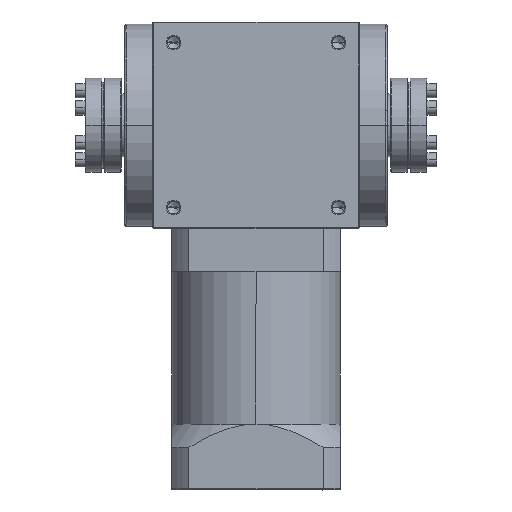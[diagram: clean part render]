
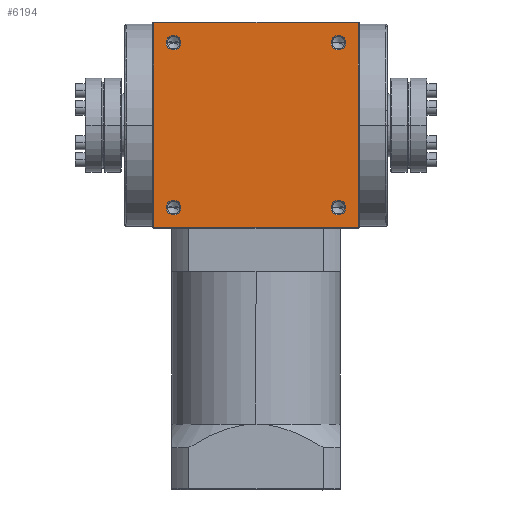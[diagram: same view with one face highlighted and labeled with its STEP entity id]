
A CAD part, top view. The second image highlights one B-rep face of the part: STEP entity #6194.
In plain terms, the highlighted planar face has unit normal (0, 0, 1).
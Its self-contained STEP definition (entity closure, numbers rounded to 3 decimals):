
#308 = EDGE_LOOP ( 'NONE', ( #14179, #9189 ) ) ;
#381 = AXIS2_PLACEMENT_3D ( 'NONE', #606, #10872, #2104 ) ;
#510 = CARTESIAN_POINT ( 'NONE',  ( 54.5, -54.5, 55. ) ) ;
#527 = CARTESIAN_POINT ( 'NONE',  ( -44., 44., 55. ) ) ;
#606 = CARTESIAN_POINT ( 'NONE',  ( -44., 44., 55. ) ) ;
#739 = VECTOR ( 'NONE', #9691, 1000. ) ;
#868 = CARTESIAN_POINT ( 'NONE',  ( 44., 44., 55. ) ) ;
#1130 = DIRECTION ( 'NONE',  ( 0., 0., 1. ) ) ;
#1160 = DIRECTION ( 'NONE',  ( 0., -1., 0. ) ) ;
#1194 = LINE ( 'NONE', #15072, #8176 ) ;
#1237 = CARTESIAN_POINT ( 'NONE',  ( 0., -54.5, 55. ) ) ;
#1274 = VERTEX_POINT ( 'NONE', #13583 ) ;
#1573 = VERTEX_POINT ( 'NONE', #9790 ) ;
#1711 = VECTOR ( 'NONE', #12982, 1000. ) ;
#1719 = CARTESIAN_POINT ( 'NONE',  ( 44., -40.1, 55. ) ) ;
#1811 = ORIENTED_EDGE ( 'NONE', *, *, #1863, .F. ) ;
#1863 = EDGE_CURVE ( 'NONE', #1274, #14397, #3900, .T. ) ;
#1905 = EDGE_LOOP ( 'NONE', ( #5179, #3449, #15602, #9008 ) ) ;
#2039 = DIRECTION ( 'NONE',  ( 0., -1., 0. ) ) ;
#2104 = DIRECTION ( 'NONE',  ( 0., -1., 0. ) ) ;
#2172 = VERTEX_POINT ( 'NONE', #1719 ) ;
#2237 = EDGE_CURVE ( 'NONE', #1573, #8997, #1194, .T. ) ;
#2258 = AXIS2_PLACEMENT_3D ( 'NONE', #13869, #5153, #15319 ) ;
#2314 = EDGE_CURVE ( 'NONE', #11667, #14611, #13800, .T. ) ;
#2372 = DIRECTION ( 'NONE',  ( 0., -1., 0. ) ) ;
#2624 = AXIS2_PLACEMENT_3D ( 'NONE', #868, #11136, #2372 ) ;
#2907 = CARTESIAN_POINT ( 'NONE',  ( -44., -47.9, 55. ) ) ;
#3003 = CARTESIAN_POINT ( 'NONE',  ( 44., -47.9, 55. ) ) ;
#3415 = DIRECTION ( 'NONE',  ( 0., 1., 0. ) ) ;
#3449 = ORIENTED_EDGE ( 'NONE', *, *, #7632, .F. ) ;
#3900 = CIRCLE ( 'NONE', #11793, 3.9 ) ;
#4079 = EDGE_CURVE ( 'NONE', #5509, #16507, #7126, .T. ) ;
#4193 = EDGE_CURVE ( 'NONE', #1573, #11547, #17255, .T. ) ;
#4459 = EDGE_LOOP ( 'NONE', ( #6986, #17448 ) ) ;
#4553 = VERTEX_POINT ( 'NONE', #9504 ) ;
#4764 = CARTESIAN_POINT ( 'NONE',  ( 44., 44., 55. ) ) ;
#4995 = FACE_BOUND ( 'NONE', #8369, .T. ) ;
#5153 = DIRECTION ( 'NONE',  ( 0., 0., 1. ) ) ;
#5159 = ORIENTED_EDGE ( 'NONE', *, *, #18724, .F. ) ;
#5179 = ORIENTED_EDGE ( 'NONE', *, *, #4193, .T. ) ;
#5247 = EDGE_CURVE ( 'NONE', #16507, #5509, #17717, .T. ) ;
#5509 = VERTEX_POINT ( 'NONE', #13035 ) ;
#5546 = VERTEX_POINT ( 'NONE', #3003 ) ;
#5976 = FACE_BOUND ( 'NONE', #17901, .T. ) ;
#6133 = CARTESIAN_POINT ( 'NONE',  ( 54.5, -54.5, 55. ) ) ;
#6194 = ADVANCED_FACE ( 'NONE', ( #4995, #5976, #9366, #12746, #9559 ), #11904, .F. ) ;
#6217 = DIRECTION ( 'NONE',  ( 0., -1., 0. ) ) ;
#6406 = CARTESIAN_POINT ( 'NONE',  ( -54.5, 54.5, 55. ) ) ;
#6589 = CARTESIAN_POINT ( 'NONE',  ( 44., -44., 55. ) ) ;
#6986 = ORIENTED_EDGE ( 'NONE', *, *, #9113, .F. ) ;
#7118 = VECTOR ( 'NONE', #1160, 1000. ) ;
#7126 = CIRCLE ( 'NONE', #18639, 3.9 ) ;
#7315 = LINE ( 'NONE', #14299, #7118 ) ;
#7547 = EDGE_CURVE ( 'NONE', #8997, #4553, #14360, .T. ) ;
#7632 = EDGE_CURVE ( 'NONE', #4553, #11547, #7315, .T. ) ;
#8046 = CARTESIAN_POINT ( 'NONE',  ( -44., 40.1, 55. ) ) ;
#8054 = DIRECTION ( 'NONE',  ( 0., -1., 0. ) ) ;
#8176 = VECTOR ( 'NONE', #3415, 1000. ) ;
#8326 = CARTESIAN_POINT ( 'NONE',  ( -44., -44., 55. ) ) ;
#8369 = EDGE_LOOP ( 'NONE', ( #16147, #5159 ) ) ;
#8378 = AXIS2_PLACEMENT_3D ( 'NONE', #9905, #1130, #11390 ) ;
#8997 = VERTEX_POINT ( 'NONE', #6406 ) ;
#9008 = ORIENTED_EDGE ( 'NONE', *, *, #2237, .F. ) ;
#9047 = DIRECTION ( 'NONE',  ( -1., 0., 0. ) ) ;
#9113 = EDGE_CURVE ( 'NONE', #5546, #2172, #18648, .T. ) ;
#9189 = ORIENTED_EDGE ( 'NONE', *, *, #4079, .F. ) ;
#9366 = FACE_BOUND ( 'NONE', #308, .T. ) ;
#9504 = CARTESIAN_POINT ( 'NONE',  ( 54.5, 54.5, 55. ) ) ;
#9559 = FACE_OUTER_BOUND ( 'NONE', #1905, .T. ) ;
#9691 = DIRECTION ( 'NONE',  ( 1., 0., 0. ) ) ;
#9768 = DIRECTION ( 'NONE',  ( 0., -1., 0. ) ) ;
#9790 = CARTESIAN_POINT ( 'NONE',  ( -54.5, -54.5, 55. ) ) ;
#9905 = CARTESIAN_POINT ( 'NONE',  ( 44., -44., 55. ) ) ;
#10589 = AXIS2_PLACEMENT_3D ( 'NONE', #6133, #17768, #9047 ) ;
#10789 = DIRECTION ( 'NONE',  ( 0., 0., 1. ) ) ;
#10872 = DIRECTION ( 'NONE',  ( 0., 0., 1. ) ) ;
#10903 = AXIS2_PLACEMENT_3D ( 'NONE', #6589, #16791, #8054 ) ;
#10944 = CARTESIAN_POINT ( 'NONE',  ( -44., 47.9, 55. ) ) ;
#11136 = DIRECTION ( 'NONE',  ( 0., 0., 1. ) ) ;
#11390 = DIRECTION ( 'NONE',  ( 0., -1., 0. ) ) ;
#11547 = VERTEX_POINT ( 'NONE', #510 ) ;
#11667 = VERTEX_POINT ( 'NONE', #8046 ) ;
#11793 = AXIS2_PLACEMENT_3D ( 'NONE', #4764, #14917, #6217 ) ;
#11801 = AXIS2_PLACEMENT_3D ( 'NONE', #527, #10789, #2039 ) ;
#11904 = PLANE ( 'NONE',  #10589 ) ;
#12722 = ORIENTED_EDGE ( 'NONE', *, *, #17884, .F. ) ;
#12746 = FACE_BOUND ( 'NONE', #4459, .T. ) ;
#12982 = DIRECTION ( 'NONE',  ( 1., 0., 0. ) ) ;
#13035 = CARTESIAN_POINT ( 'NONE',  ( -44., -40.1, 55. ) ) ;
#13381 = EDGE_CURVE ( 'NONE', #2172, #5546, #16310, .T. ) ;
#13583 = CARTESIAN_POINT ( 'NONE',  ( 44., 40.1, 55. ) ) ;
#13656 = CIRCLE ( 'NONE', #11801, 3.9 ) ;
#13800 = CIRCLE ( 'NONE', #381, 3.9 ) ;
#13869 = CARTESIAN_POINT ( 'NONE',  ( -44., -44., 55. ) ) ;
#14049 = CARTESIAN_POINT ( 'NONE',  ( 0., 54.5, 55. ) ) ;
#14179 = ORIENTED_EDGE ( 'NONE', *, *, #5247, .F. ) ;
#14299 = CARTESIAN_POINT ( 'NONE',  ( 54.5, 0., 55. ) ) ;
#14354 = CIRCLE ( 'NONE', #2624, 3.9 ) ;
#14360 = LINE ( 'NONE', #14049, #739 ) ;
#14397 = VERTEX_POINT ( 'NONE', #16263 ) ;
#14611 = VERTEX_POINT ( 'NONE', #10944 ) ;
#14917 = DIRECTION ( 'NONE',  ( 0., 0., 1. ) ) ;
#15072 = CARTESIAN_POINT ( 'NONE',  ( -54.5, 0., 55. ) ) ;
#15319 = DIRECTION ( 'NONE',  ( 0., -1., 0. ) ) ;
#15602 = ORIENTED_EDGE ( 'NONE', *, *, #7547, .F. ) ;
#16147 = ORIENTED_EDGE ( 'NONE', *, *, #2314, .F. ) ;
#16263 = CARTESIAN_POINT ( 'NONE',  ( 44., 47.9, 55. ) ) ;
#16310 = CIRCLE ( 'NONE', #8378, 3.9 ) ;
#16507 = VERTEX_POINT ( 'NONE', #2907 ) ;
#16791 = DIRECTION ( 'NONE',  ( 0., 0., 1. ) ) ;
#17255 = LINE ( 'NONE', #1237, #1711 ) ;
#17448 = ORIENTED_EDGE ( 'NONE', *, *, #13381, .F. ) ;
#17717 = CIRCLE ( 'NONE', #2258, 3.9 ) ;
#17768 = DIRECTION ( 'NONE',  ( 0., 0., -1. ) ) ;
#17884 = EDGE_CURVE ( 'NONE', #14397, #1274, #14354, .T. ) ;
#17901 = EDGE_LOOP ( 'NONE', ( #1811, #12722 ) ) ;
#18505 = DIRECTION ( 'NONE',  ( 0., 0., 1. ) ) ;
#18639 = AXIS2_PLACEMENT_3D ( 'NONE', #8326, #18505, #9768 ) ;
#18648 = CIRCLE ( 'NONE', #10903, 3.9 ) ;
#18724 = EDGE_CURVE ( 'NONE', #14611, #11667, #13656, .T. ) ;
